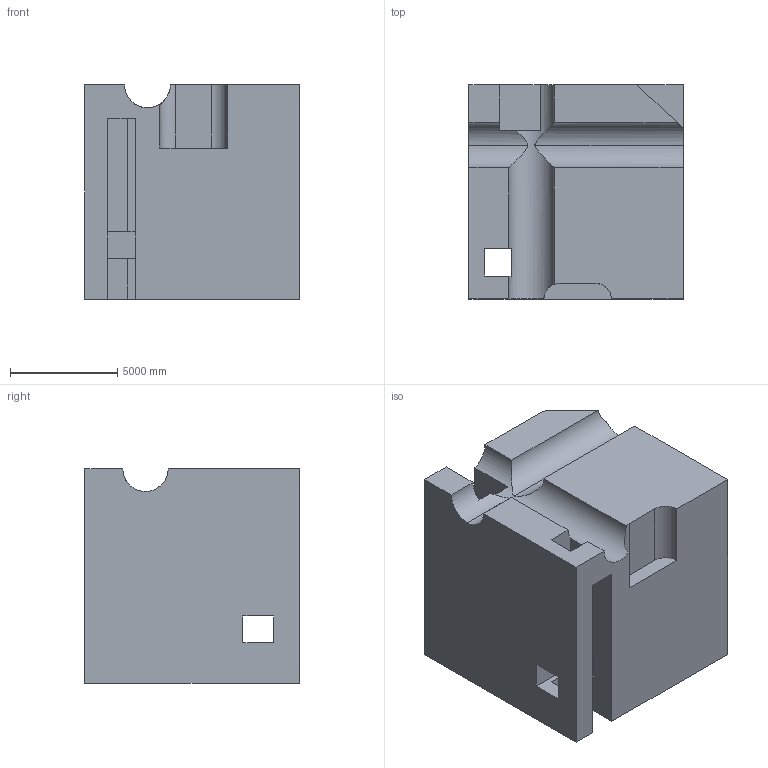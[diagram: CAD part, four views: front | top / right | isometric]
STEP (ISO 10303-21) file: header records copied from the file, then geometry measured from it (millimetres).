
FILE_DESCRIPTION (( 'STEP AP203' ), '1' );
FILE_NAME ('1820.STEP', '2022-08-19T13:12:43', ( 'user' ), ( '' ), 'SwSTEP 2.0', 'SolidWorks 2021', '' );
FILE_SCHEMA (( 'CONFIG_CONTROL_DESIGN' ));
Length unit declared in the file: centimetre
Products named in the file (1): 1820
Bounding box: 10000 x 10000 x 10000 mm (x, y, z)
Volume: 890106815793.1 mm3; surface area: 725002236.4 mm2
Topology: 1 solids, 1 shells, 44 faces, 135 edges, 90 vertices
Faces by surface type: plane 37, cylinder 7
Entity records: 1999 total; most frequent: CARTESIAN_POINT 700, ORIENTED_EDGE 270, DIRECTION 233, EDGE_CURVE 135, LINE 115, VECTOR 115, VERTEX_POINT 90, AXIS2_PLACEMENT_3D 59
